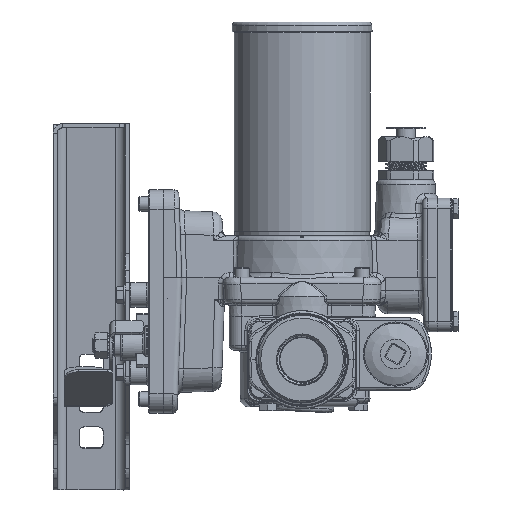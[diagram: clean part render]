
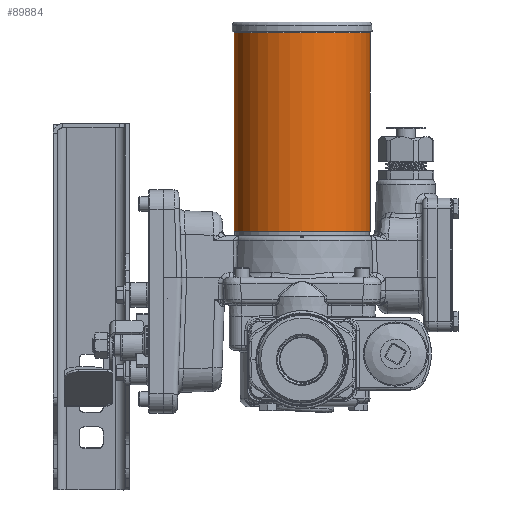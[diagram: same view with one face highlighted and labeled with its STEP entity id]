
A CAD part, front view. The second image highlights one B-rep face of the part: STEP entity #89884.
In plain terms, the highlighted cylindrical face has radius 44.45 mm (diameter 88.9 mm), a full revolution.
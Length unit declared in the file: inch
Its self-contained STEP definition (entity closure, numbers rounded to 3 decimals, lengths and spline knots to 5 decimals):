
#13308=FACE_OUTER_BOUND('',#18318,.T.);
#18318=EDGE_LOOP('',(#63427,#63428,#63429,#63430,#63431));
#23750=LINE('',#126141,#31762);
#31762=VECTOR('',#100867,1.75);
#39687=CIRCLE('',#94988,1.75);
#39688=CIRCLE('',#94989,1.75);
#39689=CIRCLE('',#94990,1.75);
#41589=VERTEX_POINT('',#126138);
#41590=VERTEX_POINT('',#126140);
#41591=VERTEX_POINT('',#126142);
#50163=EDGE_CURVE('',#41589,#41589,#39687,.T.);
#50164=EDGE_CURVE('',#41589,#41590,#23750,.T.);
#50165=EDGE_CURVE('',#41591,#41590,#39688,.T.);
#50166=EDGE_CURVE('',#41590,#41591,#39689,.T.);
#63427=ORIENTED_EDGE('',*,*,#50163,.F.);
#63428=ORIENTED_EDGE('',*,*,#50164,.T.);
#63429=ORIENTED_EDGE('',*,*,#50165,.F.);
#63430=ORIENTED_EDGE('',*,*,#50166,.F.);
#63431=ORIENTED_EDGE('',*,*,#50164,.F.);
#89217=CYLINDRICAL_SURFACE('',#94987,1.75);
#89884=ADVANCED_FACE('',(#13308),#89217,.T.);
#94987=AXIS2_PLACEMENT_3D('',#126137,#100863,#100864);
#94988=AXIS2_PLACEMENT_3D('',#126139,#100865,#100866);
#94989=AXIS2_PLACEMENT_3D('',#126143,#100868,#100869);
#94990=AXIS2_PLACEMENT_3D('',#126144,#100870,#100871);
#100863=DIRECTION('center_axis',(0.,0.,-1.));
#100864=DIRECTION('ref_axis',(1.,0.,0.));
#100865=DIRECTION('center_axis',(0.,0.,-1.));
#100866=DIRECTION('ref_axis',(1.,0.,0.));
#100867=DIRECTION('',(0.,0.,1.));
#100868=DIRECTION('center_axis',(0.,0.,1.));
#100869=DIRECTION('ref_axis',(-1.,0.,0.));
#100870=DIRECTION('center_axis',(0.,0.,1.));
#100871=DIRECTION('ref_axis',(-1.,0.,0.));
#126137=CARTESIAN_POINT('Origin',(0.,0.,4.68497));
#126138=CARTESIAN_POINT('',(-1.75,0.,2.12));
#126139=CARTESIAN_POINT('Origin',(0.,0.,2.12));
#126140=CARTESIAN_POINT('',(-1.75,0.,7.21995));
#126141=CARTESIAN_POINT('',(-1.75,0.,4.68497));
#126142=CARTESIAN_POINT('',(1.75,0.,7.21995));
#126143=CARTESIAN_POINT('Origin',(0.,0.,7.21995));
#126144=CARTESIAN_POINT('Origin',(0.,0.,7.21995));
